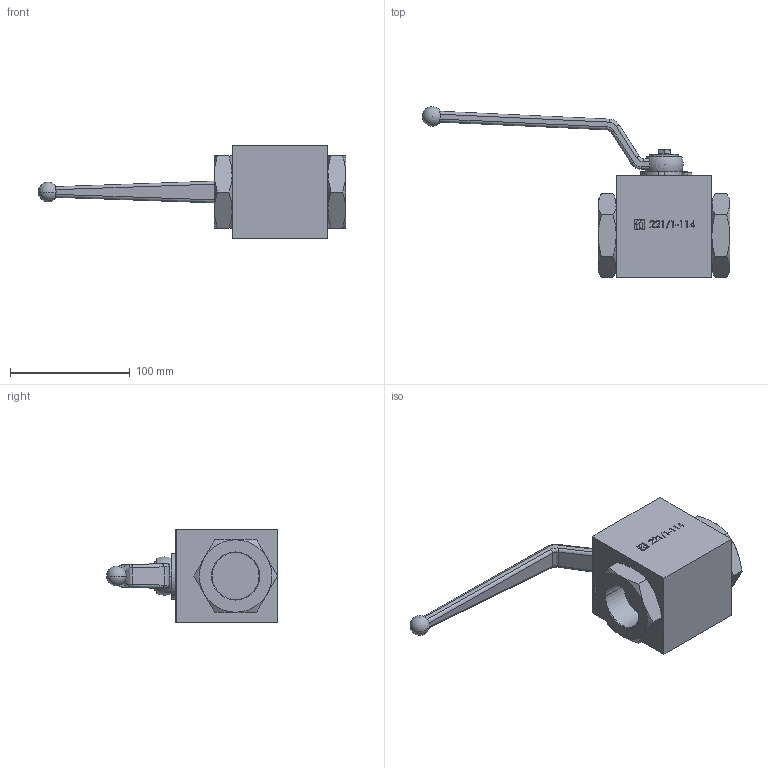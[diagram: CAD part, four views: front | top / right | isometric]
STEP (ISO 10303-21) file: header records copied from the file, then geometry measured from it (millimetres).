
FILE_DESCRIPTION (( 'STEP AP214' ), '1' );
FILE_NAME ('221-1-114.STEP', '2015-05-15T13:18:35', ( '' ), ( '' ), 'SwSTEP 2.0', 'SolidWorks 2014', '' );
FILE_SCHEMA (( 'AUTOMOTIVE_DESIGN' ));
Length unit declared in the file: millimetre
Products named in the file (1): 221-1-114
Bounding box: 257.25 x 143 x 78 mm (x, y, z)
Surface area: 63233.4 mm2 (no closed solid volume)
Topology: 0 solids, 4 shells, 167 faces, 539 edges, 366 vertices
Faces by surface type: plane 97, cylinder 31, bspline 20, cone 12, sphere 5, torus 2
Entity records: 9015 total; most frequent: CARTESIAN_POINT 2728, ORIENTED_EDGE 901, DIRECTION 833, EDGE_CURVE 526, VERTEX_POINT 358, VECTOR 343, LINE 343, AXIS2_PLACEMENT_3D 245
